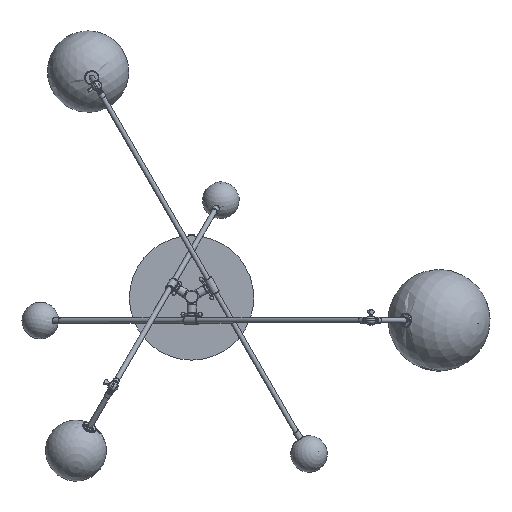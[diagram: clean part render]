
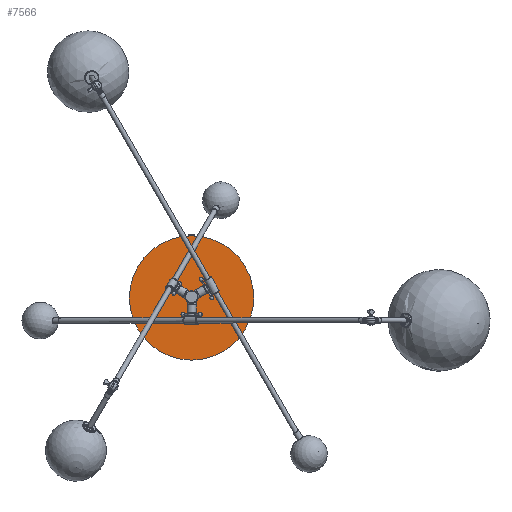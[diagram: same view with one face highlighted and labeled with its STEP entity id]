
A CAD part, top view. The second image highlights one B-rep face of the part: STEP entity #7566.
In plain terms, the highlighted planar face has unit normal (0, 0, 1).
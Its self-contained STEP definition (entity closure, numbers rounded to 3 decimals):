
#190=FACE_BOUND('',#1231,.T.);
#355=PLANE('',#8271);
#719=FACE_OUTER_BOUND('',#1230,.T.);
#1230=EDGE_LOOP('',(#6232,#6233));
#1231=EDGE_LOOP('',(#6234));
#1861=CIRCLE('',#7782,152.5);
#2083=CIRCLE('',#8256,15.);
#2091=CIRCLE('',#8272,152.5);
#2895=VERTEX_POINT('',#10630);
#2897=VERTEX_POINT('',#10633);
#3377=VERTEX_POINT('',#25226);
#3643=EDGE_CURVE('',#2897,#2895,#1861,.T.);
#4383=EDGE_CURVE('',#3377,#3377,#2083,.T.);
#4396=EDGE_CURVE('',#2895,#2897,#2091,.T.);
#6232=ORIENTED_EDGE('',*,*,#3643,.T.);
#6233=ORIENTED_EDGE('',*,*,#4396,.T.);
#6234=ORIENTED_EDGE('',*,*,#4383,.T.);
#7566=ADVANCED_FACE('',(#719,#190),#355,.F.);
#7782=AXIS2_PLACEMENT_3D('',#10634,#8631,#8632);
#8256=AXIS2_PLACEMENT_3D('',#25227,#9782,#9783);
#8271=AXIS2_PLACEMENT_3D('',#25267,#9816,#9817);
#8272=AXIS2_PLACEMENT_3D('',#25268,#9818,#9819);
#8631=DIRECTION('center_axis',(0.,0.,
1.));
#8632=DIRECTION('ref_axis',(-1.,0.,0.));
#9782=DIRECTION('center_axis',(0.,0.,
-1.));
#9783=DIRECTION('ref_axis',(-0.936,0.352,0.));
#9816=DIRECTION('center_axis',(0.,0.,
-1.));
#9817=DIRECTION('ref_axis',(1.,0.,0.));
#9818=DIRECTION('center_axis',(0.,0.,
1.));
#9819=DIRECTION('ref_axis',(-1.,0.,0.));
#10630=CARTESIAN_POINT('',(0.,152.5,44.));
#10633=CARTESIAN_POINT('',(152.5,0.,44.));
#10634=CARTESIAN_POINT('Origin',(0.,0.,
44.));
#25226=CARTESIAN_POINT('',(14.042,-5.276,44.));
#25227=CARTESIAN_POINT('Origin',(0.,0.,
44.));
#25267=CARTESIAN_POINT('Origin',(0.,0.,
44.));
#25268=CARTESIAN_POINT('Origin',(0.,0.,
44.));
